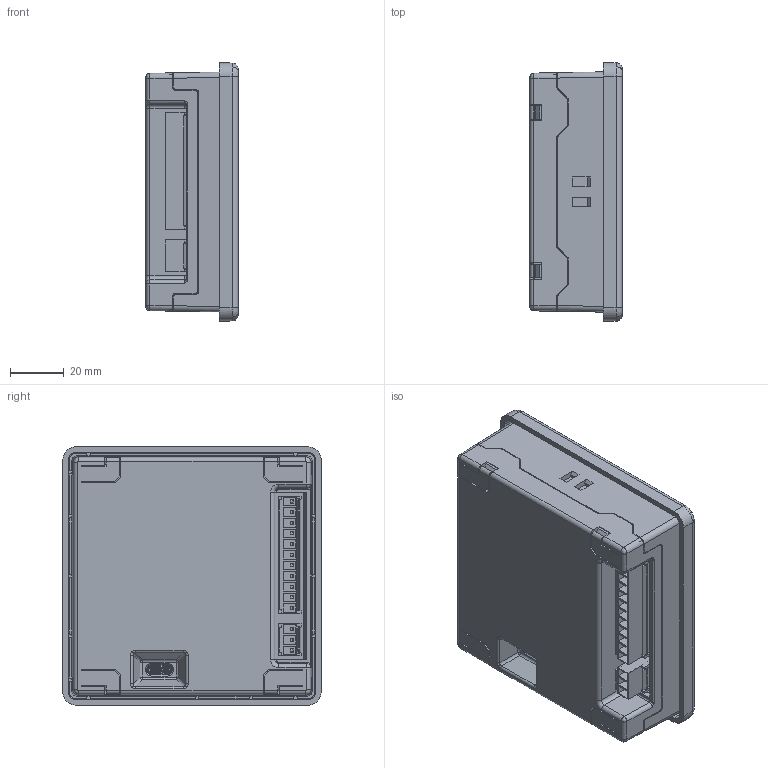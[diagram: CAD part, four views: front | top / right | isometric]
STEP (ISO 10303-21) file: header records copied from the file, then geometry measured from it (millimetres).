
FILE_DESCRIPTION (( 'STEP AP203' ), '1' );
FILE_NAME ('HGM40120241220.STEP', '2025-07-23T02:19:03', ( 'gk' ), ( '' ), 'SwSTEP 2.0', 'SolidWorks 2018', '' );
FILE_SCHEMA (( 'CONFIG_CONTROL_DESIGN' ));
Products named in the file (1): HGM40120241220
Bounding box: 34.3 x 96 x 96 mm (x, y, z)
Volume: 252699.1 mm3; surface area: 116111.5 mm2
Topology: 9 solids, 13 shells, 2199 faces, 6079 edges, 3940 vertices
Faces by surface type: plane 1780, cylinder 311, cone 54, bspline 44, sphere 6, torus 4
Entity records: 70129 total; most frequent: CARTESIAN_POINT 15074, ORIENTED_EDGE 12154, DIRECTION 10360, EDGE_CURVE 6077, LINE 5024, VECTOR 5024, VERTEX_POINT 3940, AXIS2_PLACEMENT_3D 2668
